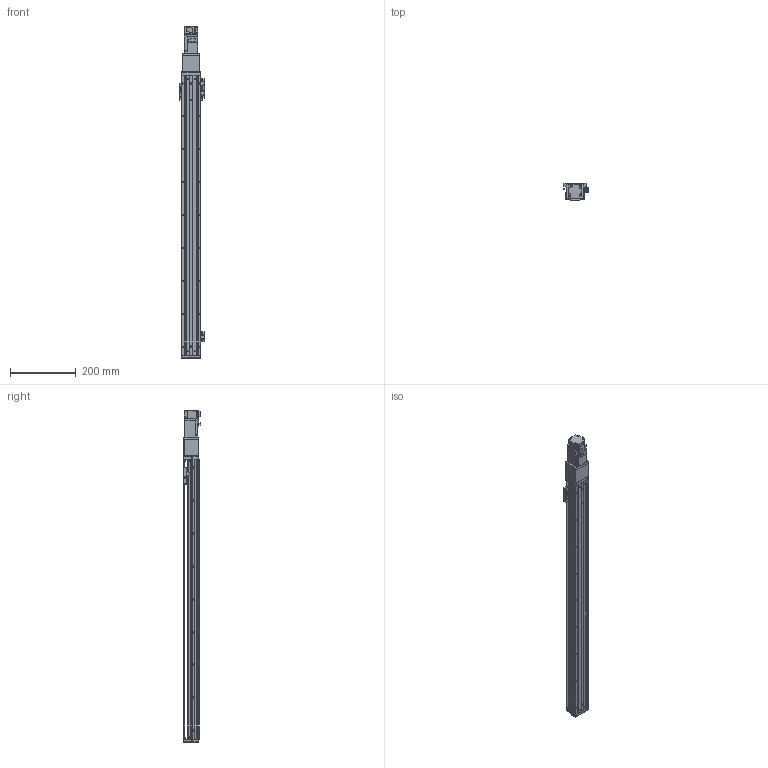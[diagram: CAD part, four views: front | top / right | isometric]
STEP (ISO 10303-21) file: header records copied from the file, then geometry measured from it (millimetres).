
FILE_DESCRIPTION (( 'STEP AP203' ), '1' );
FILE_NAME ('KTHA50-750-BC-M10-C4L.step', '2022-03-19T07:04:30', ( '微软用户' ), ( '微软中国' ), 'SwSTEP 2.0', 'SolidWorks 2020', '' );
FILE_SCHEMA (( 'CONFIG_CONTROL_DESIGN' ));
Length unit declared in the file: millimetre
Products named in the file (18): KTHA50-002; GBT 70.1-M3℅6; CTHA50-006-2_CTHA60-006-2; KTHA50-004; CTHA60-017; CTHA50-013; KTHA50-005; GBT 70.1-M4×12; HG-KR13（三菱）; GB¨uT 70.2-M3¡Á6_M3¡Á6; CTHA60-016; KTHA50-750-BC-M10-C4L; EE_SX911P_R; CTHA60-021; GBT77-2000 M3×3; GBT 70.3-M3℅6; KTHA50-001_850; CTHA50-027
Assembly tree (52 placements, depth 2):
  KTHA50-750-BC-M10-C4L
    KTHA50-001_850
    KTHA50-002
    KTHA50-004
    KTHA50-005
    GB¨uT 70.2-M3¡Á6_M3¡Á6  x6
    EE_SX911P_R  x3
    GBT77-2000 M3×3  x6
    GBT 70.1-M3℅6  x6
    CTHA60-017  x3
    GBT 70.1-M4×12  x10
    CTHA60-016  x2
    CTHA60-021  x2
    GBT 70.3-M3℅6  x6
    CTHA50-027
    CTHA50-006-2_CTHA60-006-2
    CTHA50-013
    HG-KR13（三菱）
Bounding box: 75.22 x 53.3 x 1008.6 mm (x, y, z)
Volume: 1662394.4 mm3; surface area: 421484 mm2
Topology: 55 solids, 55 shells, 2226 faces, 5290 edges, 3244 vertices
Faces by surface type: plane 1268, cylinder 530, cone 324, torus 88, sphere 16
Entity records: 36832 total; most frequent: CARTESIAN_POINT 6026, DIRECTION 5950, ORIENTED_EDGE 5652, EDGE_CURVE 2826, VECTOR 1988, LINE 1988, AXIS2_PLACEMENT_3D 1981, VERTEX_POINT 1777
